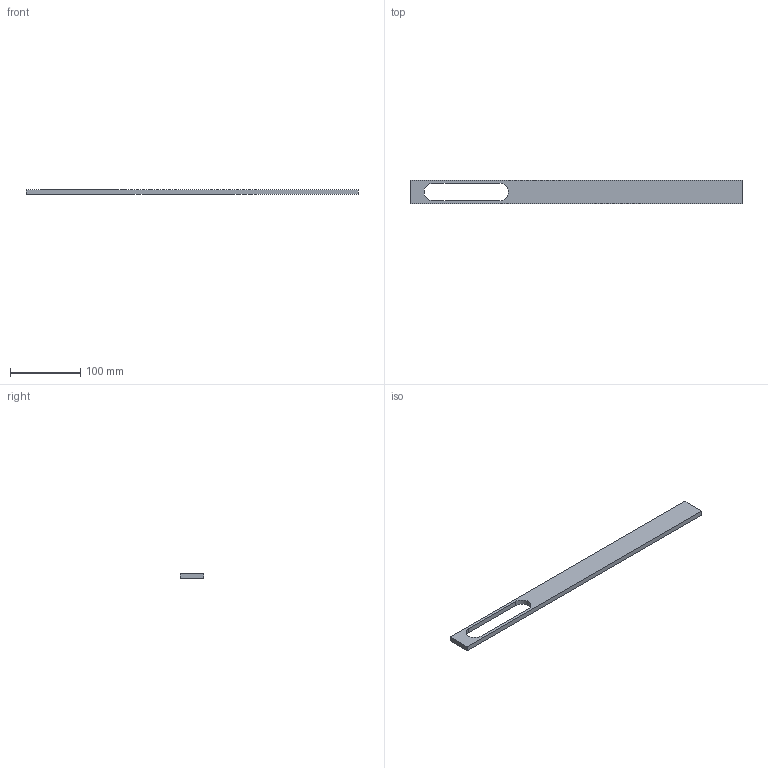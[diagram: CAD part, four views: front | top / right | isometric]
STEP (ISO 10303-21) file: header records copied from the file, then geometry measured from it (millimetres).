
FILE_DESCRIPTION( ( 'STEP AP214' ), '1' );
FILE_NAME( 'C:/Users/swati/Desktop/10-03-2016/14-03-2016/9064671/9064671.stp', ' ', ( ' ' ), ( ' ' ), 'PSStep 15.0.47', 'PARTsolutions', ' ' );
FILE_SCHEMA( ( 'AUTOMOTIVE_DESIGN { 1 0 10303 214 1 1 1 1 }' ) );
Length unit declared in the file: millimetre
Products named in the file (2): 95 ; _
Assembly tree (1 placements, depth 2):
  95 
    _
Bounding box: 472 x 34 x 7 mm (x, y, z)
Volume: 91973.3 mm3; surface area: 35629.6 mm2
Topology: 1 solids, 1 shells, 16 faces, 33 edges, 22 vertices
Faces by surface type: plane 11, cylinder 5
Full cylindrical faces by diameter (mm): 4 x3
Entity records: 582 total; most frequent: DIRECTION 76, CARTESIAN_POINT 70, ORIENTED_EDGE 60, EDGE_CURVE 30, AXIS2_PLACEMENT_3D 28, EDGE_LOOP 24, VERTEX_POINT 22, LINE 20
